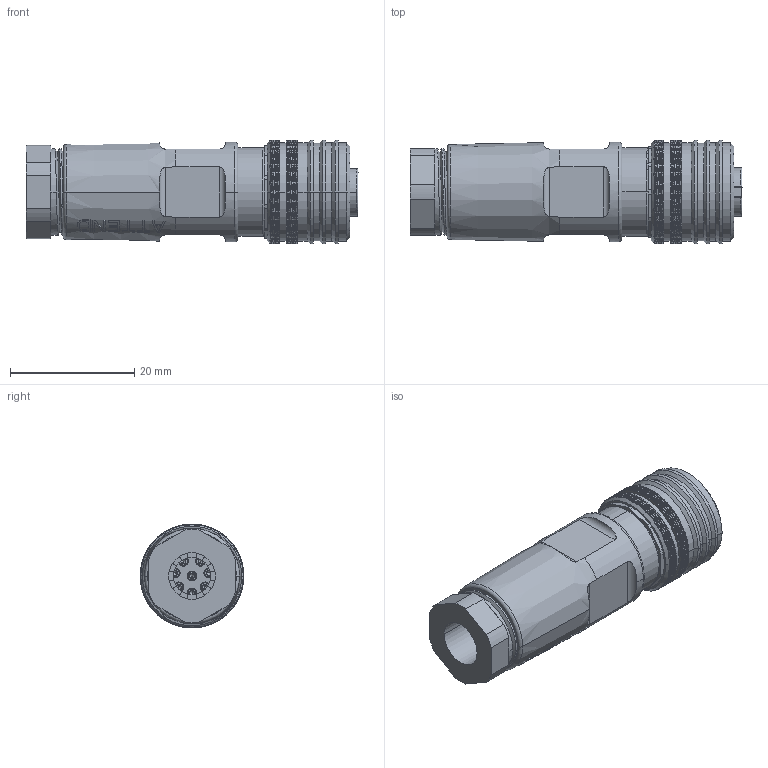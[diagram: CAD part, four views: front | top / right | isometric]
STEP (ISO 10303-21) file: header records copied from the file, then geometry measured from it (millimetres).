
FILE_DESCRIPTION((''),'2;1');
FILE_NAME('3D_DRAWING_ASM_ASM','2025-12-24T',('fros.liao'),(''),'CREO PARAMETRIC BY PTC INC, 2018360','CREO PARAMETRIC BY PTC INC, 2018360','');
FILE_SCHEMA(('AUTOMOTIVE_DESIGN { 1 0 10303 214 1 1 1 1 }'));
Products named in the file (24): SHIELD_NUT_17_1_1_1; PLASTIC_STRAPS_14_1_1_1; RUBBER_STRAPS_14_1_1_1; BACK_PLUG_15_1_1_1; BODY_11_1_1_1; ORING_PUSHPULL_6_1_1_1; THREAD_SLEEVE_ASM_23_ASM_1_ASM__ASM; MSBR-15_1_1; MSBR-14_1_1; MSBR-13_1_1_1; MSBR-12_1_2_1_1; MSBR-11_1_2_1_1; MSBR-10_1_2_1_1; MSBR-9_1_2_1_1; MSBR-8_1_2_1_1; MSBR-7_1_2_1_1; MSBR-4_1_2_1_1; MSBR-3_1_2_1_1; MSBR-2_1_2_1_1; MSBR-1_1_2_1_1; 216A-08F01_ASM_1_ASM_1_ASM; 216A-08F01_C_1_ASM_1_ASM; 3D_DRAWING_ASM_3_ASM; 3D_DRAWING_ASM_ASM
Assembly tree (23 placements, depth 5):
  3D_DRAWING_ASM_ASM
    3D_DRAWING_ASM_3_ASM
      THREAD_SLEEVE_ASM_23_ASM_1_ASM__ASM
        SHIELD_NUT_17_1_1_1
        PLASTIC_STRAPS_14_1_1_1
        RUBBER_STRAPS_14_1_1_1
        BACK_PLUG_15_1_1_1
        BODY_11_1_1_1
        ORING_PUSHPULL_6_1_1_1
      216A-08F01_C_1_ASM_1_ASM
        216A-08F01_ASM_1_ASM_1_ASM
          MSBR-15_1_1
          MSBR-14_1_1
          MSBR-13_1_1_1
          MSBR-12_1_2_1_1
          MSBR-11_1_2_1_1
          MSBR-10_1_2_1_1
          MSBR-9_1_2_1_1
          MSBR-8_1_2_1_1
          MSBR-7_1_2_1_1
          MSBR-4_1_2_1_1
          MSBR-3_1_2_1_1
          MSBR-2_1_2_1_1
          MSBR-1_1_2_1_1
Bounding box: 53.5 x 16.7 x 16.7 mm (x, y, z)
Volume: 7172 mm3; surface area: 12423 mm2
Topology: 19 solids, 19 shells, 2975 faces, 7144 edges, 4243 vertices
Faces by surface type: bspline 1556, cylinder 803, plane 427, cone 168, torus 21
Entity records: 151177 total; most frequent: CARTESIAN_POINT 72957, ORIENTED_EDGE 14224, DIRECTION 7910, EDGE_CURVE 7112, PRESENTATION_STYLE_ASSIGNMENT 6414, STYLED_ITEM 6414, CURVE_STYLE 6400, VERTEX_POINT 4243
